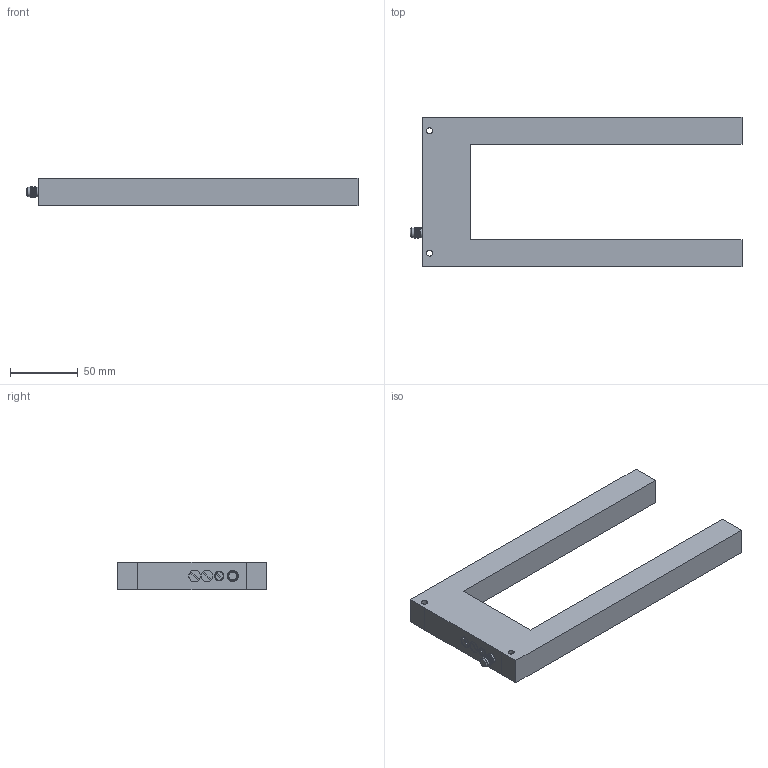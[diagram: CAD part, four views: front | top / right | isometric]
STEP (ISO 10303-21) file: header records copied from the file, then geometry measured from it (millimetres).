
FILE_DESCRIPTION(('STEP AP214'),'1');
FILE_NAME('F:/3D Modelle homepage/tmp0.step','2020-09-01T10:09:46',(' '),(' '),'Spatial InterOp 3D',' ',' ');
FILE_SCHEMA(('automotive_design'));
Length unit declared in the file: millimetre
Products named in the file (1): 1
Bounding box: 244.42 x 110 x 20 mm (x, y, z)
Volume: 236669.1 mm3; surface area: 46396.9 mm2
Topology: 1 solids, 1 shells, 86 faces, 208 edges, 135 vertices
Faces by surface type: plane 40, cylinder 36, cone 4, torus 4, bspline 2
Entity records: 5180 total; most frequent: CARTESIAN_POINT 2466, ORIENTED_EDGE 416, DIRECTION 400, EDGE_CURVE 208, AXIS2_PLACEMENT_3D 143, VERTEX_POINT 135, LINE 114, VECTOR 114
